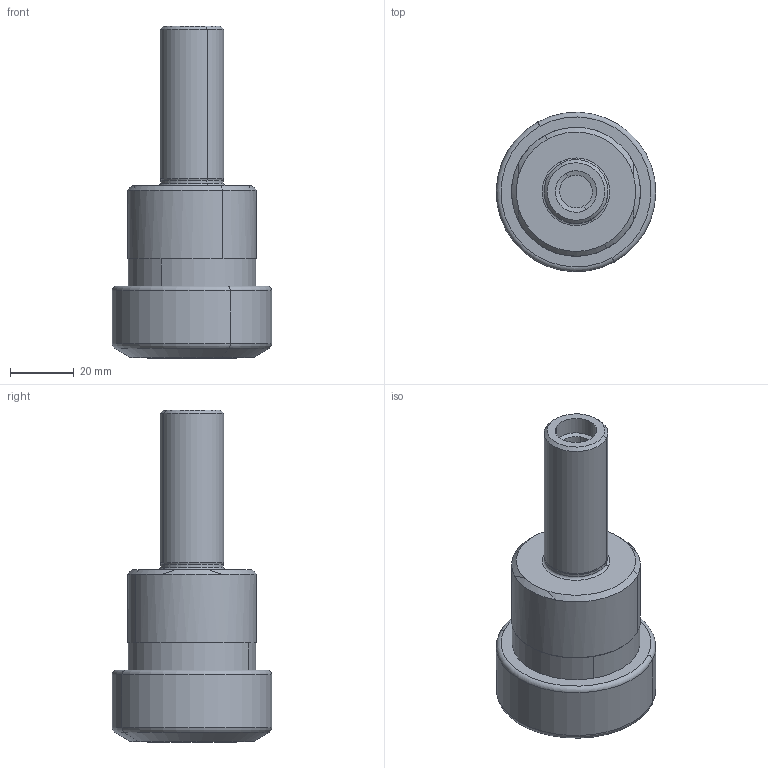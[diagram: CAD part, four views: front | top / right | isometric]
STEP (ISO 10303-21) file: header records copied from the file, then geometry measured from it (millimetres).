
FILE_DESCRIPTION(('CATIA V5 STEP','CAx-IF Rec.Pracs.--- Model Styling and Organization---1.2---2011-12-15'),'2;1');
FILE_NAME('\\nas01\drv1\utils\eitdev\rte\eit\transmagicconvert\db\out\635955258783122598\4508003 LM.stp','2016-04-06T04:51:32+00:00',('none'),('none'),'CATIA Version 5 Release 21 SP 5 (IN-10)','CATIA V5 STEP AP214','none');
FILE_SCHEMA(('AUTOMOTIVE_DESIGN { 1 0 10303 214 1 1 1 1 }'));
Length unit declared in the file: millimetre
Products named in the file (1): ST 20X 50 ER32 F
Bounding box: 49.99 x 49.99 x 104.03 mm (x, y, z)
Volume: 67024.4 mm3; surface area: 18680.8 mm2
Topology: 1 solids, 1 shells, 57 faces, 128 edges, 78 vertices
Faces by surface type: cylinder 20, cone 18, torus 10, plane 7, extrusion 2
Entity records: 1592 total; most frequent: CARTESIAN_POINT 421, ORIENTED_EDGE 256, DIRECTION 184, EDGE_CURVE 128, AXIS2_PLACEMENT_3D 112, VERTEX_POINT 78, CIRCLE 76, EDGE_LOOP 62
